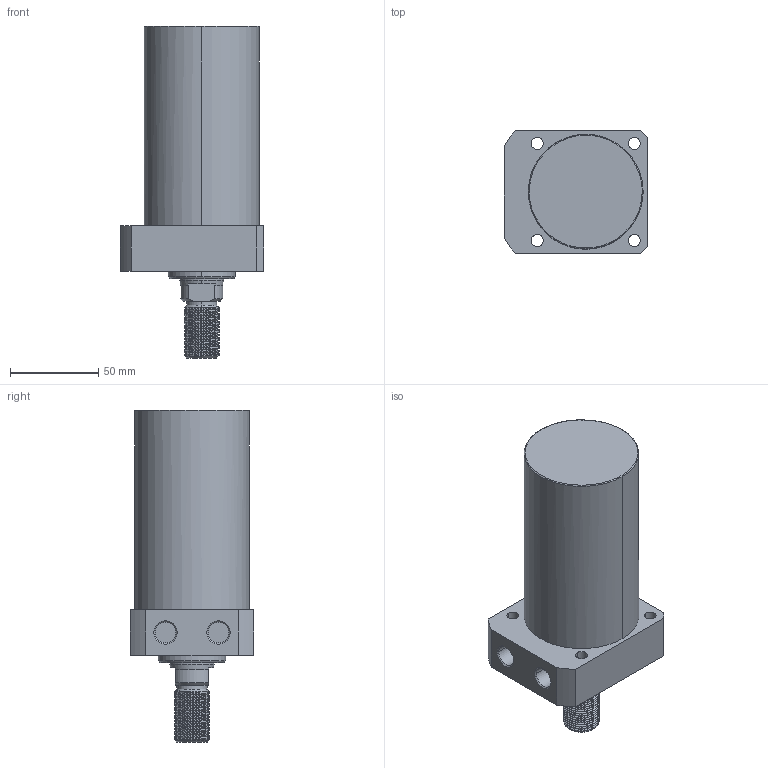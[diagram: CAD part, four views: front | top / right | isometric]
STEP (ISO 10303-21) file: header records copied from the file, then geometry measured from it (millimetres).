
FILE_DESCRIPTION((' '),'2;1');
FILE_NAME( 'TLLR-065CT-080.STEP.stp', '2025-10-24T16:34:58', (' '), ('--- Datakit www.datakit.com---'), ' Datakit CrossCadWare V2024.1 Dec 21 2023', 'Mastercam 2025', ' ');
FILE_SCHEMA(('AUTOMOTIVE_DESIGN { 1 0 10303 214 1 1 1 1 }'));
Length unit declared in the file: millimetre
Products named in the file (1): TLLR-065CT-080
Bounding box: 81 x 70 x 188 mm (x, y, z)
Volume: 531501.8 mm3; surface area: 49615.4 mm2
Topology: 1 solids, 1 shells, 105 faces, 378 edges, 283 vertices
Faces by surface type: cylinder 66, plane 20, cone 15, bspline 2, torus 2
Entity records: 12228 total; most frequent: CARTESIAN_POINT 9002, ORIENTED_EDGE 756, DIRECTION 528, EDGE_CURVE 378, VERTEX_POINT 283, AXIS2_PLACEMENT_3D 213, B_SPLINE_CURVE_WITH_KNOTS 167, EDGE_LOOP 121
